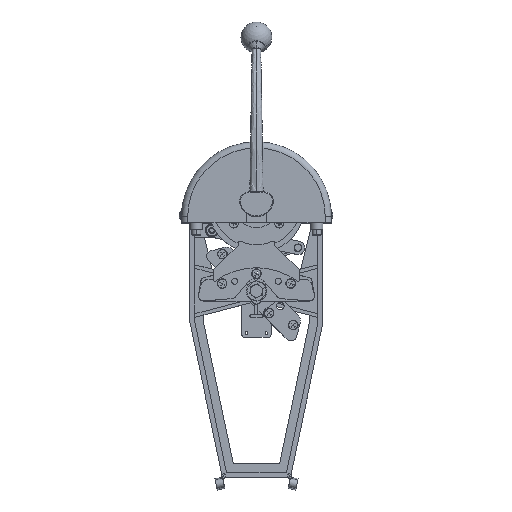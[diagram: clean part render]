
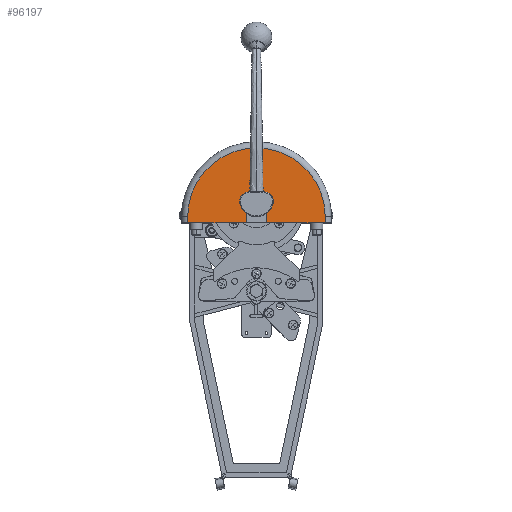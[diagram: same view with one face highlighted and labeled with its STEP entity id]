
A CAD part, top view. The second image highlights one B-rep face of the part: STEP entity #96197.
In plain terms, the highlighted planar face has unit normal (0, 0, 1).
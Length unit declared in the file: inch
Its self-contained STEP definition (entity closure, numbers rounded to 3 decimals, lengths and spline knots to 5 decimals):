
#757 = VECTOR ( 'NONE', #99472, 39.37008 ) ;
#1861 = VECTOR ( 'NONE', #16477, 39.37008 ) ;
#4233 = VERTEX_POINT ( 'NONE', #108071 ) ;
#4458 = VERTEX_POINT ( 'NONE', #102743 ) ;
#7640 = EDGE_CURVE ( 'NONE', #54447, #53119, #70683, .T. ) ;
#8050 = DIRECTION ( 'NONE',  ( 0., 0., -1. ) ) ;
#8513 = CARTESIAN_POINT ( 'NONE',  ( 0.407, 0., 2.335 ) ) ;
#12521 = CIRCLE ( 'NONE', #70051, 0.407 ) ;
#14227 = ORIENTED_EDGE ( 'NONE', *, *, #14345, .F. ) ;
#14345 = EDGE_CURVE ( 'NONE', #4458, #53119, #94463, .T. ) ;
#15362 = CARTESIAN_POINT ( 'NONE',  ( 3.03, 0., 2.335 ) ) ;
#16477 = DIRECTION ( 'NONE',  ( -1., 0., 0. ) ) ;
#16651 = VECTOR ( 'NONE', #54289, 39.37008 ) ;
#17312 = CARTESIAN_POINT ( 'NONE',  ( 2.78, 0., 2.335 ) ) ;
#23575 = ORIENTED_EDGE ( 'NONE', *, *, #75988, .T. ) ;
#25537 = VECTOR ( 'NONE', #28196, 39.37008 ) ;
#27861 = DIRECTION ( 'NONE',  ( 1., 0., 0. ) ) ;
#28196 = DIRECTION ( 'NONE',  ( 0., -1., 0. ) ) ;
#33623 = VERTEX_POINT ( 'NONE', #69975 ) ;
#34474 = CARTESIAN_POINT ( 'NONE',  ( 3.03, 0., 2.335 ) ) ;
#36291 = VERTEX_POINT ( 'NONE', #17312 ) ;
#36524 = CARTESIAN_POINT ( 'NONE',  ( 2.78, 0.25, 2.335 ) ) ;
#38975 = CARTESIAN_POINT ( 'NONE',  ( 0., 0.75, 2.335 ) ) ;
#39797 = EDGE_CURVE ( 'NONE', #33623, #54447, #99233, .T. ) ;
#40944 = DIRECTION ( 'NONE',  ( -1., 0., 0. ) ) ;
#47781 = EDGE_CURVE ( 'NONE', #36291, #33623, #87716, .T. ) ;
#49595 = LINE ( 'NONE', #34474, #1861 ) ;
#50109 = ORIENTED_EDGE ( 'NONE', *, *, #7640, .T. ) ;
#53119 = VERTEX_POINT ( 'NONE', #62196 ) ;
#53964 = EDGE_LOOP ( 'NONE', ( #75298, #50109, #14227, #77773, #23575, #74969, #89572, #61852 ) ) ;
#54289 = DIRECTION ( 'NONE',  ( 0., 1., 0. ) ) ;
#54447 = VERTEX_POINT ( 'NONE', #86682 ) ;
#59820 = DIRECTION ( 'NONE',  ( 1., 0., 0. ) ) ;
#61708 = CARTESIAN_POINT ( 'NONE',  ( 0.407, 0.75, 2.335 ) ) ;
#61852 = ORIENTED_EDGE ( 'NONE', *, *, #47781, .T. ) ;
#62196 = CARTESIAN_POINT ( 'NONE',  ( -2.78, 0., 2.335 ) ) ;
#63240 = CARTESIAN_POINT ( 'NONE',  ( 0., 0.25, 2.335 ) ) ;
#69975 = CARTESIAN_POINT ( 'NONE',  ( 2.78, 0.25, 2.335 ) ) ;
#70051 = AXIS2_PLACEMENT_3D ( 'NONE', #38975, #8050, #59820 ) ;
#70683 = LINE ( 'NONE', #97388, #25537 ) ;
#72615 = CARTESIAN_POINT ( 'NONE',  ( 0., 0.25, 2.335 ) ) ;
#74579 = CARTESIAN_POINT ( 'NONE',  ( -0.407, 0.75, 2.335 ) ) ;
#74969 = ORIENTED_EDGE ( 'NONE', *, *, #103033, .T. ) ;
#75298 = ORIENTED_EDGE ( 'NONE', *, *, #39797, .T. ) ;
#75988 = EDGE_CURVE ( 'NONE', #110089, #4233, #12521, .T. ) ;
#76315 = VECTOR ( 'NONE', #105224, 39.37008 ) ;
#77773 = ORIENTED_EDGE ( 'NONE', *, *, #100234, .T. ) ;
#81917 = DIRECTION ( 'NONE',  ( 0., 0., 1. ) ) ;
#82808 = VECTOR ( 'NONE', #40944, 39.37008 ) ;
#86682 = CARTESIAN_POINT ( 'NONE',  ( -2.78, 0.25, 2.335 ) ) ;
#87716 = LINE ( 'NONE', #36524, #76315 ) ;
#88089 = CARTESIAN_POINT ( 'NONE',  ( -0.407, 0., 2.335 ) ) ;
#89377 = DIRECTION ( 'NONE',  ( 1., 0., 0. ) ) ;
#89572 = ORIENTED_EDGE ( 'NONE', *, *, #100637, .F. ) ;
#89925 = DIRECTION ( 'NONE',  ( 0., 0., 1. ) ) ;
#90023 = PLANE ( 'NONE',  #90324 ) ;
#90324 = AXIS2_PLACEMENT_3D ( 'NONE', #72615, #81917, #27861 ) ;
#94463 = LINE ( 'NONE', #15362, #82808 ) ;
#94641 = VERTEX_POINT ( 'NONE', #8513 ) ;
#96197 = ADVANCED_FACE ( 'NONE', ( #108109 ), #90023, .T. ) ;
#97388 = CARTESIAN_POINT ( 'NONE',  ( -2.78, 0., 2.335 ) ) ;
#97951 = LINE ( 'NONE', #88089, #16651 ) ;
#99233 = CIRCLE ( 'NONE', #108560, 2.78 ) ;
#99472 = DIRECTION ( 'NONE',  ( 0., -1., 0. ) ) ;
#100234 = EDGE_CURVE ( 'NONE', #4458, #110089, #97951, .T. ) ;
#100637 = EDGE_CURVE ( 'NONE', #36291, #94641, #49595, .T. ) ;
#102743 = CARTESIAN_POINT ( 'NONE',  ( -0.407, 0., 2.335 ) ) ;
#103033 = EDGE_CURVE ( 'NONE', #4233, #94641, #108193, .T. ) ;
#105224 = DIRECTION ( 'NONE',  ( 0., 1., 0. ) ) ;
#108071 = CARTESIAN_POINT ( 'NONE',  ( 0.407, 0.75, 2.335 ) ) ;
#108109 = FACE_OUTER_BOUND ( 'NONE', #53964, .T. ) ;
#108193 = LINE ( 'NONE', #61708, #757 ) ;
#108560 = AXIS2_PLACEMENT_3D ( 'NONE', #63240, #89925, #89377 ) ;
#110089 = VERTEX_POINT ( 'NONE', #74579 ) ;
